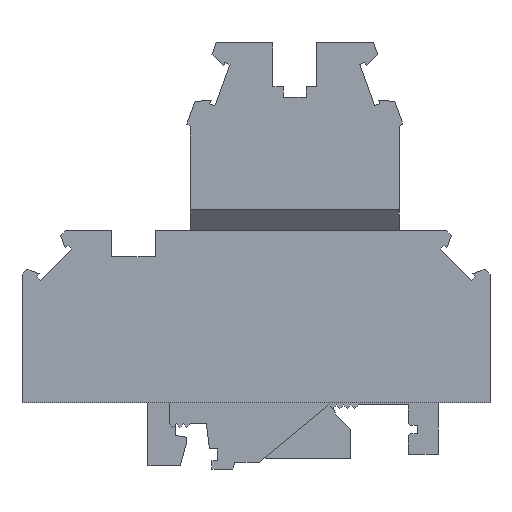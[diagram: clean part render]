
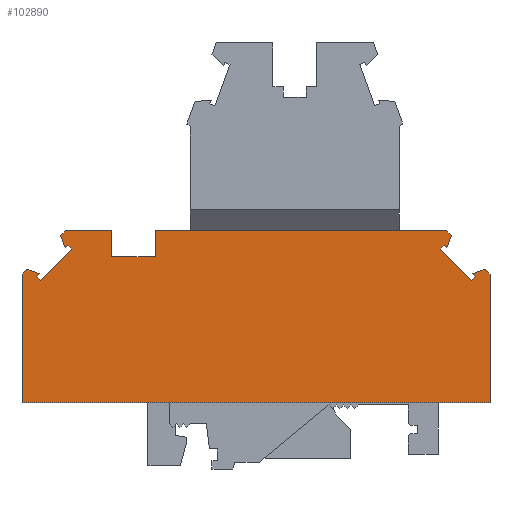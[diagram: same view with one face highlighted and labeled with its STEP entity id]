
A CAD part, left-side view. The second image highlights one B-rep face of the part: STEP entity #102890.
In plain terms, the highlighted planar face has unit normal (-1, 0, 0).
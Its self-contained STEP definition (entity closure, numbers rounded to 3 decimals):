
#2780=CARTESIAN_POINT('',(2.6,67.15,9.3));
#2790=VERTEX_POINT('',#2780);
#2840=CARTESIAN_POINT('',(2.6,28.,9.3));
#2850=DIRECTION('',(0.,1.,0.));
#2860=VECTOR('',#2850,1.);
#2870=LINE('',#2840,#2860);
#2880=CARTESIAN_POINT('',(2.6,0.,9.3));
#2890=VERTEX_POINT('',#2880);
#2900=EDGE_CURVE('',#2890,#2790,#2870,.T.);
#5110=CARTESIAN_POINT('',(2.6,0.,9.091));
#5120=DIRECTION('',(0.,0.,-1.));
#5130=VECTOR('',#5120,1.);
#5140=LINE('',#5110,#5130);
#5150=CARTESIAN_POINT('',(2.6,0.,27.727));
#5160=VERTEX_POINT('',#5150);
#5170=EDGE_CURVE('',#5160,#2890,#5140,.T.);
#11320=CARTESIAN_POINT('',(2.6,13.,33.95));
#11330=VERTEX_POINT('',#11320);
#22720=CARTESIAN_POINT('',(2.6,6.571,31.852));
#22730=VERTEX_POINT('',#22720);
#22760=CARTESIAN_POINT('',(2.6,28.,53.281));
#22770=DIRECTION('',(0.,0.707,0.707));
#22780=VECTOR('',#22770,1.);
#22790=LINE('',#22760,#22780);
#22800=CARTESIAN_POINT('',(2.6,6.198,31.478));
#22810=VERTEX_POINT('',#22800);
#22820=EDGE_CURVE('',#22810,#22730,#22790,.T.);
#40060=CARTESIAN_POINT('',(2.6,2.472,27.752));
#40070=VERTEX_POINT('',#40060);
#40100=CARTESIAN_POINT('',(2.6,28.,53.281));
#40110=DIRECTION('',(0.,0.707,0.707));
#40120=VECTOR('',#40110,1.);
#40130=LINE('',#40100,#40120);
#40140=CARTESIAN_POINT('',(2.6,2.098,27.379));
#40150=VERTEX_POINT('',#40140);
#40160=EDGE_CURVE('',#40150,#40070,#40130,.T.);
#40560=CARTESIAN_POINT('',(2.6,20.386,9.091));
#40570=DIRECTION('',(0.,-0.707,0.707));
#40580=VECTOR('',#40570,1.);
#40590=LINE('',#40560,#40580);
#40600=CARTESIAN_POINT('',(2.6,2.643,26.835));
#40610=VERTEX_POINT('',#40600);
#40620=EDGE_CURVE('',#40610,#40150,#40590,.T.);
#40770=CARTESIAN_POINT('',(2.6,28.,52.192));
#40780=DIRECTION('',(0.,-0.707,-0.707));
#40790=VECTOR('',#40780,1.);
#40800=LINE('',#40770,#40790);
#40810=CARTESIAN_POINT('',(2.6,7.115,31.307));
#40820=VERTEX_POINT('',#40810);
#40830=EDGE_CURVE('',#40820,#40610,#40800,.T.);
#41040=CARTESIAN_POINT('',(2.6,29.331,9.091));
#41050=DIRECTION('',(0.,0.707,-0.707));
#41060=VECTOR('',#41050,1.);
#41070=LINE('',#41040,#41060);
#41080=EDGE_CURVE('',#22730,#40820,#41070,.T.);
#41420=CARTESIAN_POINT('',(2.6,28.,55.727));
#41430=DIRECTION('',(0.,-0.707,-0.707));
#41440=VECTOR('',#41430,1.);
#41450=LINE('',#41420,#41440);
#41460=CARTESIAN_POINT('',(2.6,0.711,28.438));
#41470=VERTEX_POINT('',#41460);
#41480=EDGE_CURVE('',#41470,#5160,#41450,.T.);
#41640=CARTESIAN_POINT('',(2.6,28.,17.811));
#41650=DIRECTION('',(0.,-0.932,0.363));
#41660=VECTOR('',#41650,1.);
#41670=LINE('',#41640,#41660);
#41680=EDGE_CURVE('',#40070,#41470,#41670,.T.);
#55490=CARTESIAN_POINT('',(2.6,14.915,9.091));
#55500=DIRECTION('',(0.,0.363,-0.932));
#55510=VECTOR('',#55500,1.);
#55520=LINE('',#55490,#55510);
#55530=CARTESIAN_POINT('',(2.6,5.512,33.239));
#55540=VERTEX_POINT('',#55530);
#55550=EDGE_CURVE('',#55540,#22810,#55520,.T.);
#66390=CARTESIAN_POINT('',(2.6,28.,55.727));
#66400=DIRECTION('',(0.,-0.707,-0.707));
#66410=VECTOR('',#66400,1.);
#66420=LINE('',#66390,#66410);
#66430=CARTESIAN_POINT('',(2.6,6.223,33.95));
#66440=VERTEX_POINT('',#66430);
#66450=EDGE_CURVE('',#66440,#55540,#66420,.T.);
#92220=CARTESIAN_POINT('',(2.6,43.,33.95));
#92230=VERTEX_POINT('',#92220);
#92480=CARTESIAN_POINT('',(2.6,28.,33.95));
#92490=DIRECTION('',(0.,-1.,0.));
#92500=VECTOR('',#92490,1.);
#92510=LINE('',#92480,#92500);
#92520=EDGE_CURVE('',#92230,#11330,#92510,.T.);
#97710=CARTESIAN_POINT('',(2.6,28.,33.95));
#97720=DIRECTION('',(0.,-1.,0.));
#97730=VECTOR('',#97720,1.);
#97740=LINE('',#97710,#97730);
#97750=EDGE_CURVE('',#11330,#66440,#97740,.T.);
#99590=CARTESIAN_POINT('',(2.6,54.3,30.2));
#99600=VERTEX_POINT('',#99590);
#99750=CARTESIAN_POINT('',(2.6,48.023,
30.2));
#99760=VERTEX_POINT('',#99750);
#99790=CARTESIAN_POINT('',(2.6,28.,
30.2));
#99800=DIRECTION('',(0.,1.,0.));
#99810=VECTOR('',#99800,1.);
#99820=LINE('',#99790,#99810);
#99830=EDGE_CURVE('',#99760,#99600,#99820,.T.);
#100290=CARTESIAN_POINT('',(2.6,48.023,
33.95));
#100300=VERTEX_POINT('',#100290);
#100330=CARTESIAN_POINT('',(2.6,48.023,
19.975));
#100340=DIRECTION('',(0.,0.,-1.));
#100350=VECTOR('',#100340,1.);
#100360=LINE('',#100330,#100350);
#100370=EDGE_CURVE('',#100300,#99760,#100360,.T.);
#101560=CARTESIAN_POINT('',(2.6,28.,
33.95));
#101570=DIRECTION('',(0.,1.,0.));
#101580=VECTOR('',#101570,1.);
#101590=LINE('',#101560,#101580);
#101600=EDGE_CURVE('',#92230,#100300,#101590,.T.);
#101720=CARTESIAN_POINT('',(2.6,0.,
33.95));
#101730=DIRECTION('',(-1.,0.,0.));
#101740=DIRECTION('',(0.,0.,1.));
#101750=AXIS2_PLACEMENT_3D('',#101720,#101730,#101740);
#101760=PLANE('',#101750);
#101770=CARTESIAN_POINT('',(2.6,67.15,9.091));
#101780=DIRECTION('',(0.,0.,1.));
#101790=VECTOR('',#101780,1.);
#101800=LINE('',#101770,#101790);
#101810=CARTESIAN_POINT('',(2.6,67.15,27.727));
#101820=VERTEX_POINT('',#101810);
#101830=EDGE_CURVE('',#2790,#101820,#101800,.T.);
#101840=ORIENTED_EDGE('',*,*,#101830,.F.);
#101850=CARTESIAN_POINT('',(2.6,39.15,55.727));
#101860=DIRECTION('',(0.,-0.707,0.707));
#101870=VECTOR('',#101860,1.);
#101880=LINE('',#101850,#101870);
#101890=CARTESIAN_POINT('',(2.6,66.439,28.438));
#101900=VERTEX_POINT('',#101890);
#101910=EDGE_CURVE('',#101820,#101900,#101880,.T.);
#101920=ORIENTED_EDGE('',*,*,#101910,.F.);
#101930=CARTESIAN_POINT('',(2.6,39.15,17.811));
#101940=DIRECTION('',(0.,-0.932,-0.363));
#101950=VECTOR('',#101940,1.);
#101960=LINE('',#101930,#101950);
#101970=CARTESIAN_POINT('',(2.6,64.678,27.752));
#101980=VERTEX_POINT('',#101970);
#101990=EDGE_CURVE('',#101900,#101980,#101960,.T.);
#102000=ORIENTED_EDGE('',*,*,#101990,.F.);
#102010=CARTESIAN_POINT('',(2.6,39.15,53.281));
#102020=DIRECTION('',(0.,0.707,-0.707));
#102030=VECTOR('',#102020,1.);
#102040=LINE('',#102010,#102030);
#102050=CARTESIAN_POINT('',(2.6,65.052,27.379));
#102060=VERTEX_POINT('',#102050);
#102070=EDGE_CURVE('',#101980,#102060,#102040,.T.);
#102080=ORIENTED_EDGE('',*,*,#102070,.F.);
#102090=CARTESIAN_POINT('',(2.6,46.764,9.091));
#102100=DIRECTION('',(0.,-0.707,-0.707));
#102110=VECTOR('',#102100,1.);
#102120=LINE('',#102090,#102110);
#102130=CARTESIAN_POINT('',(2.6,64.507,26.835));
#102140=VERTEX_POINT('',#102130);
#102150=EDGE_CURVE('',#102060,#102140,#102120,.T.);
#102160=ORIENTED_EDGE('',*,*,#102150,.F.);
#102170=CARTESIAN_POINT('',(2.6,39.15,52.192));
#102180=DIRECTION('',(0.,-0.707,0.707));
#102190=VECTOR('',#102180,1.);
#102200=LINE('',#102170,#102190);
#102210=CARTESIAN_POINT('',(2.6,60.035,31.307));
#102220=VERTEX_POINT('',#102210);
#102230=EDGE_CURVE('',#102140,#102220,#102200,.T.);
#102240=ORIENTED_EDGE('',*,*,#102230,.F.);
#102250=CARTESIAN_POINT('',(2.6,37.819,9.091));
#102260=DIRECTION('',(0.,0.707,0.707));
#102270=VECTOR('',#102260,1.);
#102280=LINE('',#102250,#102270);
#102290=CARTESIAN_POINT('',(2.6,60.579,31.852));
#102300=VERTEX_POINT('',#102290);
#102310=EDGE_CURVE('',#102220,#102300,#102280,.T.);
#102320=ORIENTED_EDGE('',*,*,#102310,.F.);
#102330=CARTESIAN_POINT('',(2.6,39.15,53.281));
#102340=DIRECTION('',(0.,0.707,-0.707));
#102350=VECTOR('',#102340,1.);
#102360=LINE('',#102330,#102350);
#102370=CARTESIAN_POINT('',(2.6,60.952,31.478));
#102380=VERTEX_POINT('',#102370);
#102390=EDGE_CURVE('',#102300,#102380,#102360,.T.);
#102400=ORIENTED_EDGE('',*,*,#102390,.F.);
#102410=CARTESIAN_POINT('',(2.6,52.235,9.091));
#102420=DIRECTION('',(0.,0.363,0.932));
#102430=VECTOR('',#102420,1.);
#102440=LINE('',#102410,#102430);
#102450=CARTESIAN_POINT('',(2.6,61.638,33.239));
#102460=VERTEX_POINT('',#102450);
#102470=EDGE_CURVE('',#102380,#102460,#102440,.T.);
#102480=ORIENTED_EDGE('',*,*,#102470,.F.);
#102490=CARTESIAN_POINT('',(2.6,39.15,55.727));
#102500=DIRECTION('',(0.,-0.707,0.707));
#102510=VECTOR('',#102500,1.);
#102520=LINE('',#102490,#102510);
#102530=CARTESIAN_POINT('',(2.6,60.927,33.95));
#102540=VERTEX_POINT('',#102530);
#102550=EDGE_CURVE('',#102460,#102540,#102520,.T.);
#102560=ORIENTED_EDGE('',*,*,#102550,.F.);
#102570=CARTESIAN_POINT('',(2.6,39.15,33.95));
#102580=DIRECTION('',(0.,-1.,0.));
#102590=VECTOR('',#102580,1.);
#102600=LINE('',#102570,#102590);
#102610=CARTESIAN_POINT('',(2.6,54.3,33.95));
#102620=VERTEX_POINT('',#102610);
#102630=EDGE_CURVE('',#102540,#102620,#102600,.T.);
#102640=ORIENTED_EDGE('',*,*,#102630,.F.);
#102650=CARTESIAN_POINT('',(2.6,54.3,-51.14));
#102660=DIRECTION('',(0.,0.,1.));
#102670=VECTOR('',#102660,1.);
#102680=LINE('',#102650,#102670);
#102690=EDGE_CURVE('',#99600,#102620,#102680,.T.);
#102700=ORIENTED_EDGE('',*,*,#102690,.T.);
#102710=ORIENTED_EDGE('',*,*,#99830,.T.);
#102720=ORIENTED_EDGE('',*,*,#100370,.T.);
#102730=ORIENTED_EDGE('',*,*,#101600,.T.);
#102740=ORIENTED_EDGE('',*,*,#92520,.F.);
#102750=ORIENTED_EDGE('',*,*,#97750,.F.);
#102760=ORIENTED_EDGE('',*,*,#66450,.F.);
#102770=ORIENTED_EDGE('',*,*,#55550,.F.);
#102780=ORIENTED_EDGE('',*,*,#22820,.F.);
#102790=ORIENTED_EDGE('',*,*,#41080,.F.);
#102800=ORIENTED_EDGE('',*,*,#40830,.F.);
#102810=ORIENTED_EDGE('',*,*,#40620,.F.);
#102820=ORIENTED_EDGE('',*,*,#40160,.F.);
#102830=ORIENTED_EDGE('',*,*,#41680,.F.);
#102840=ORIENTED_EDGE('',*,*,#41480,.F.);
#102850=ORIENTED_EDGE('',*,*,#5170,.F.);
#102860=ORIENTED_EDGE('',*,*,#2900,.F.);
#102870=EDGE_LOOP('',(#102860,#102850,#102840,#102830,#102820,#102810,
#102800,#102790,#102780,#102770,#102760,#102750,#102740,#102730,#102720,
#102710,#102700,#102640,#102560,#102480,#102400,#102320,#102240,#102160,
#102080,#102000,#101920,#101840));
#102880=FACE_OUTER_BOUND('',#102870,.T.);
#102890=ADVANCED_FACE('',(#102880),#101760,.T.);
